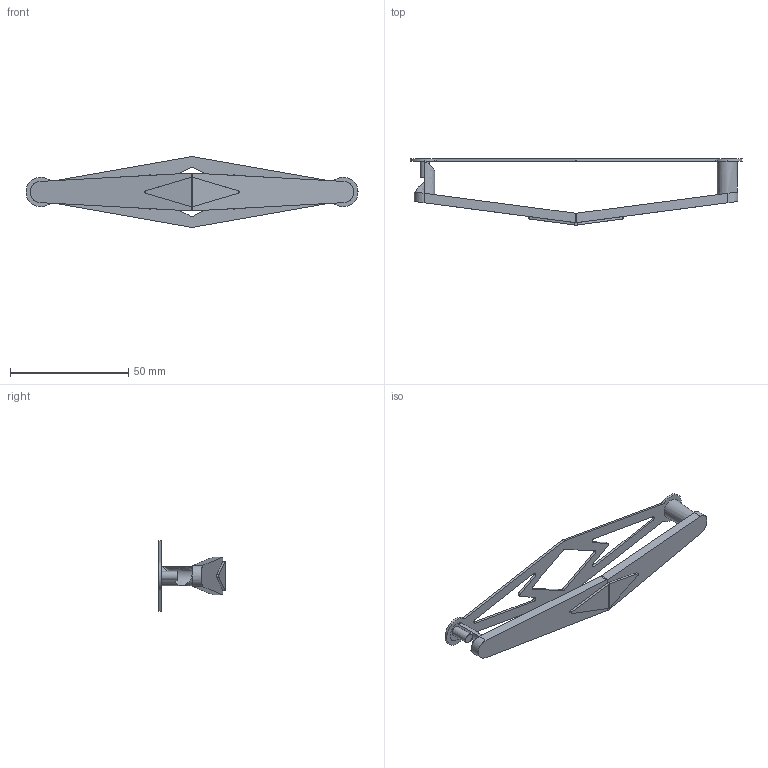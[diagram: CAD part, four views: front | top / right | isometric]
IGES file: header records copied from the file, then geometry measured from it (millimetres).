
Start section: Data from Parasolid IGES Translator 15.0.47, Copyright(c) 2006 Siemens P LM Software. All Rights Reserved.
Global section: file name: 115374.igs; native system:  By UGS Corp.; preprocessor: XPlus GENERIC/IGES 3.0; author: Noname; organization: Noname; date: 20140122.102503; units: millimetre
Bounding box: 140.5 x 28 x 30 mm (x, y, z)
Surface area: 9170.3 mm2 (no closed solid volume)
Topology: 0 solids, 0 shells, 88 faces, 492 edges, 490 vertices
Faces by surface type: revolution 50, extrusion 38
